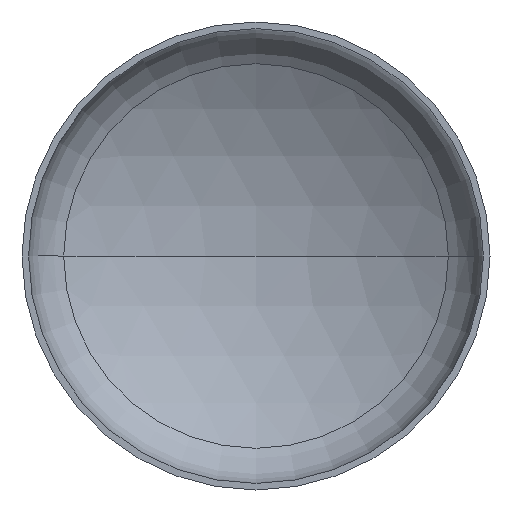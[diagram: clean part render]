
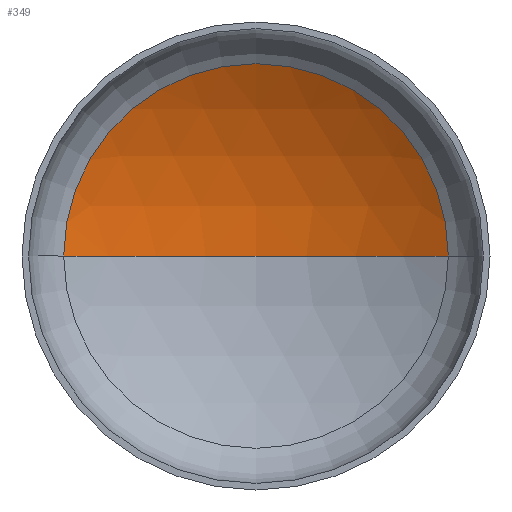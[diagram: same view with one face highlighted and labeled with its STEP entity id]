
A CAD part, front view. The second image highlights one B-rep face of the part: STEP entity #349.
In plain terms, the highlighted spherical face has radius 1920 mm.
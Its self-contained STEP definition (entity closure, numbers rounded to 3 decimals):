
#5 = ORIENTED_EDGE ( 'NONE', *, *, #410, .T. ) ;
#43 = CARTESIAN_POINT ( 'NONE',  ( 0., -1219.994, 0. ) ) ;
#57 = ORIENTED_EDGE ( 'NONE', *, *, #383, .T. ) ;
#59 = DIRECTION ( 'NONE',  ( 0., 0., 1. ) ) ;
#68 = ORIENTED_EDGE ( 'NONE', *, *, #367, .F. ) ;
#74 = CARTESIAN_POINT ( 'NONE',  ( 0., 427.482, 0. ) ) ;
#80 = DIRECTION ( 'NONE',  ( 0., -1., 0. ) ) ;
#98 = VERTEX_POINT ( 'NONE', #324 ) ;
#101 = DIRECTION ( 'NONE',  ( -1., 0., 0. ) ) ;
#115 = DIRECTION ( 'NONE',  ( -1., 0., 0. ) ) ;
#123 = CIRCLE ( 'NONE', #173, 1920. ) ;
#137 = VERTEX_POINT ( 'NONE', #350 ) ;
#142 = CARTESIAN_POINT ( 'NONE',  ( 0., 700.006, 0. ) ) ;
#148 = AXIS2_PLACEMENT_3D ( 'NONE', #335, #309, #101 ) ;
#173 = AXIS2_PLACEMENT_3D ( 'NONE', #43, #59, #272 ) ;
#193 = CIRCLE ( 'NONE', #295, 986.013 ) ;
#203 = DIRECTION ( 'NONE',  ( 0., 0., -1. ) ) ;
#211 = VERTEX_POINT ( 'NONE', #142 ) ;
#225 = SPHERICAL_SURFACE ( 'NONE', #148, 1920. ) ;
#243 = AXIS2_PLACEMENT_3D ( 'NONE', #364, #203, #115 ) ;
#272 = DIRECTION ( 'NONE',  ( 1., 0., 0. ) ) ;
#278 = CIRCLE ( 'NONE', #243, 1920. ) ;
#282 = DIRECTION ( 'NONE',  ( 1., 0., 0. ) ) ;
#295 = AXIS2_PLACEMENT_3D ( 'NONE', #74, #80, #282 ) ;
#309 = DIRECTION ( 'NONE',  ( 0., 0., -1. ) ) ;
#324 = CARTESIAN_POINT ( 'NONE',  ( -986.013, 427.482, 0. ) ) ;
#335 = CARTESIAN_POINT ( 'NONE',  ( 0., -1219.994, 0. ) ) ;
#349 = ADVANCED_FACE ( 'NONE', ( #365 ), #225, .F. ) ;
#350 = CARTESIAN_POINT ( 'NONE',  ( 986.013, 427.482, 0. ) ) ;
#364 = CARTESIAN_POINT ( 'NONE',  ( 0., -1219.994, 0. ) ) ;
#365 = FACE_OUTER_BOUND ( 'NONE', #370, .T. ) ;
#367 = EDGE_CURVE ( 'NONE', #211, #98, #123, .T. ) ;
#370 = EDGE_LOOP ( 'NONE', ( #68, #57, #5 ) ) ;
#383 = EDGE_CURVE ( 'NONE', #211, #137, #278, .T. ) ;
#410 = EDGE_CURVE ( 'NONE', #137, #98, #193, .T. ) ;
